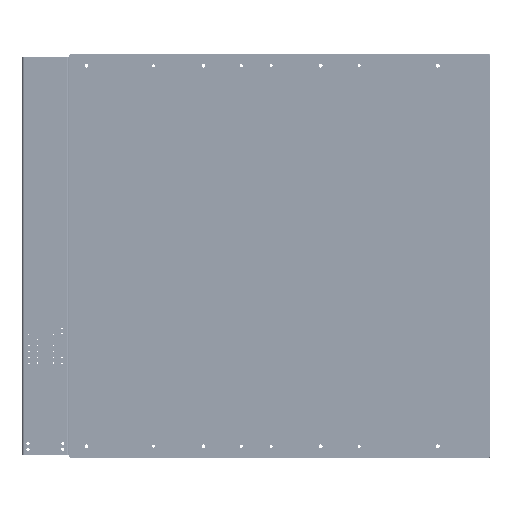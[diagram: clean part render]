
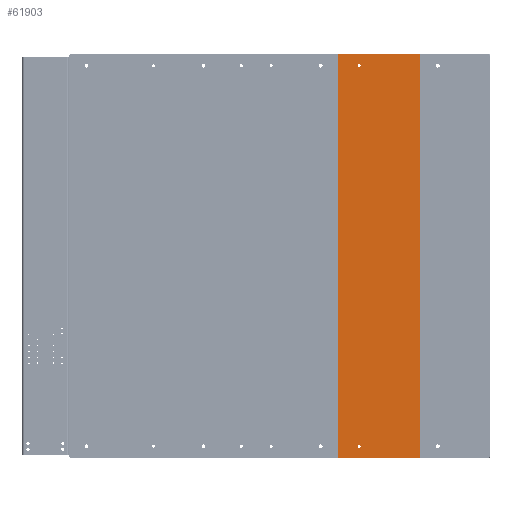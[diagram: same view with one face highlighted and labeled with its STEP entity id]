
A CAD part, front view. The second image highlights one B-rep face of the part: STEP entity #61903.
In plain terms, the highlighted planar face has unit normal (0, -1, 0).
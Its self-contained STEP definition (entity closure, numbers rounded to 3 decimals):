
#1069 = EDGE_CURVE ( 'NONE', #92093, #104191, #29587, .T. ) ;
#2247 = ORIENTED_EDGE ( 'NONE', *, *, #70421, .F. ) ;
#3823 = CARTESIAN_POINT ( 'NONE',  ( 11.196, 30.51, 971. ) ) ;
#10051 = CIRCLE ( 'NONE', #29122, 2.5 ) ;
#16313 = CARTESIAN_POINT ( 'NONE',  ( 151.196, 30.51, 281. ) ) ;
#18489 = EDGE_LOOP ( 'NONE', ( #154847, #77495 ) ) ;
#20422 = ORIENTED_EDGE ( 'NONE', *, *, #140383, .T. ) ;
#21876 = DIRECTION ( 'NONE',  ( 0., 1., 0. ) ) ;
#21898 = CIRCLE ( 'NONE', #62716, 2.5 ) ;
#22000 = CARTESIAN_POINT ( 'NONE',  ( 46.696, 30.51, 303.5 ) ) ;
#29122 = AXIS2_PLACEMENT_3D ( 'NONE', #46792, #37361, #76485 ) ;
#29587 = LINE ( 'NONE', #55987, #56504 ) ;
#32320 = DIRECTION ( 'NONE',  ( 0., 0., 1. ) ) ;
#32815 = DIRECTION ( 'NONE',  ( 0., 1., 0. ) ) ;
#34259 = CARTESIAN_POINT ( 'NONE',  ( 46.696, 30.51, 951. ) ) ;
#35989 = VERTEX_POINT ( 'NONE', #97101 ) ;
#37361 = DIRECTION ( 'NONE',  ( 0., 1., 0. ) ) ;
#45938 = CARTESIAN_POINT ( 'NONE',  ( 11.196, 30.51, 281. ) ) ;
#46792 = CARTESIAN_POINT ( 'NONE',  ( 46.696, 30.51, 301. ) ) ;
#47433 = DIRECTION ( 'NONE',  ( 0., 0., 1. ) ) ;
#50762 = FACE_BOUND ( 'NONE', #152411, .T. ) ;
#55987 = CARTESIAN_POINT ( 'NONE',  ( 11.196, 30.51, 971. ) ) ;
#56074 = VERTEX_POINT ( 'NONE', #22000 ) ;
#56504 = VECTOR ( 'NONE', #95129, 1000. ) ;
#56686 = CARTESIAN_POINT ( 'NONE',  ( 46.696, 30.51, 951. ) ) ;
#61903 = ADVANCED_FACE ( 'NONE', ( #50762, #140974, #128223 ), #64351, .F. ) ;
#62716 = AXIS2_PLACEMENT_3D ( 'NONE', #34259, #87004, #72546 ) ;
#63227 = CIRCLE ( 'NONE', #125692, 2.5 ) ;
#63811 = CARTESIAN_POINT ( 'NONE',  ( 46.696, 30.51, 953.5 ) ) ;
#64351 = PLANE ( 'NONE',  #161730 ) ;
#64913 = CARTESIAN_POINT ( 'NONE',  ( 46.696, 30.51, 948.5 ) ) ;
#66358 = LINE ( 'NONE', #75753, #79824 ) ;
#67047 = CARTESIAN_POINT ( 'NONE',  ( 46.696, 30.51, 301. ) ) ;
#68602 = DIRECTION ( 'NONE',  ( 0., 0., 1. ) ) ;
#70421 = EDGE_CURVE ( 'NONE', #136800, #35989, #66358, .T. ) ;
#72546 = DIRECTION ( 'NONE',  ( 0., 0., 1. ) ) ;
#75753 = CARTESIAN_POINT ( 'NONE',  ( 11.196, 30.51, 281. ) ) ;
#76485 = DIRECTION ( 'NONE',  ( 0., 0., 1. ) ) ;
#77495 = ORIENTED_EDGE ( 'NONE', *, *, #114148, .T. ) ;
#79824 = VECTOR ( 'NONE', #146354, 1000. ) ;
#80109 = VECTOR ( 'NONE', #96276, 1000. ) ;
#87004 = DIRECTION ( 'NONE',  ( 0., 1., 0. ) ) ;
#92093 = VERTEX_POINT ( 'NONE', #145683 ) ;
#95129 = DIRECTION ( 'NONE',  ( -1., 0., 0. ) ) ;
#96276 = DIRECTION ( 'NONE',  ( 0., 0., 1. ) ) ;
#97101 = CARTESIAN_POINT ( 'NONE',  ( 11.196, 30.51, 281. ) ) ;
#102612 = EDGE_LOOP ( 'NONE', ( #128348, #107777, #2247, #124289 ) ) ;
#103170 = CIRCLE ( 'NONE', #146720, 2.5 ) ;
#104191 = VERTEX_POINT ( 'NONE', #3823 ) ;
#106218 = DIRECTION ( 'NONE',  ( 0., 0., 1. ) ) ;
#107090 = CARTESIAN_POINT ( 'NONE',  ( 46.696, 30.51, 298.5 ) ) ;
#107777 = ORIENTED_EDGE ( 'NONE', *, *, #165967, .F. ) ;
#109078 = EDGE_CURVE ( 'NONE', #136800, #92093, #159243, .T. ) ;
#111557 = VERTEX_POINT ( 'NONE', #64913 ) ;
#114148 = EDGE_CURVE ( 'NONE', #141671, #56074, #103170, .T. ) ;
#118982 = DIRECTION ( 'NONE',  ( 0., 1., 0. ) ) ;
#123120 = EDGE_CURVE ( 'NONE', #56074, #141671, #10051, .T. ) ;
#123704 = VECTOR ( 'NONE', #32320, 1000. ) ;
#124289 = ORIENTED_EDGE ( 'NONE', *, *, #109078, .T. ) ;
#125692 = AXIS2_PLACEMENT_3D ( 'NONE', #56686, #32815, #68602 ) ;
#125702 = CARTESIAN_POINT ( 'NONE',  ( 11.196, 30.51, 281. ) ) ;
#128223 = FACE_OUTER_BOUND ( 'NONE', #102612, .T. ) ;
#128348 = ORIENTED_EDGE ( 'NONE', *, *, #1069, .T. ) ;
#133897 = ORIENTED_EDGE ( 'NONE', *, *, #160446, .T. ) ;
#135079 = CARTESIAN_POINT ( 'NONE',  ( 151.196, 30.51, 281. ) ) ;
#136182 = LINE ( 'NONE', #45938, #123704 ) ;
#136800 = VERTEX_POINT ( 'NONE', #135079 ) ;
#140383 = EDGE_CURVE ( 'NONE', #146559, #111557, #63227, .T. ) ;
#140974 = FACE_BOUND ( 'NONE', #18489, .T. ) ;
#141671 = VERTEX_POINT ( 'NONE', #107090 ) ;
#145683 = CARTESIAN_POINT ( 'NONE',  ( 151.196, 30.51, 971. ) ) ;
#146354 = DIRECTION ( 'NONE',  ( -1., 0., 0. ) ) ;
#146559 = VERTEX_POINT ( 'NONE', #63811 ) ;
#146720 = AXIS2_PLACEMENT_3D ( 'NONE', #67047, #118982, #106218 ) ;
#152411 = EDGE_LOOP ( 'NONE', ( #20422, #133897 ) ) ;
#154847 = ORIENTED_EDGE ( 'NONE', *, *, #123120, .T. ) ;
#159243 = LINE ( 'NONE', #16313, #80109 ) ;
#160446 = EDGE_CURVE ( 'NONE', #111557, #146559, #21898, .T. ) ;
#161730 = AXIS2_PLACEMENT_3D ( 'NONE', #125702, #21876, #47433 ) ;
#165967 = EDGE_CURVE ( 'NONE', #35989, #104191, #136182, .T. ) ;
